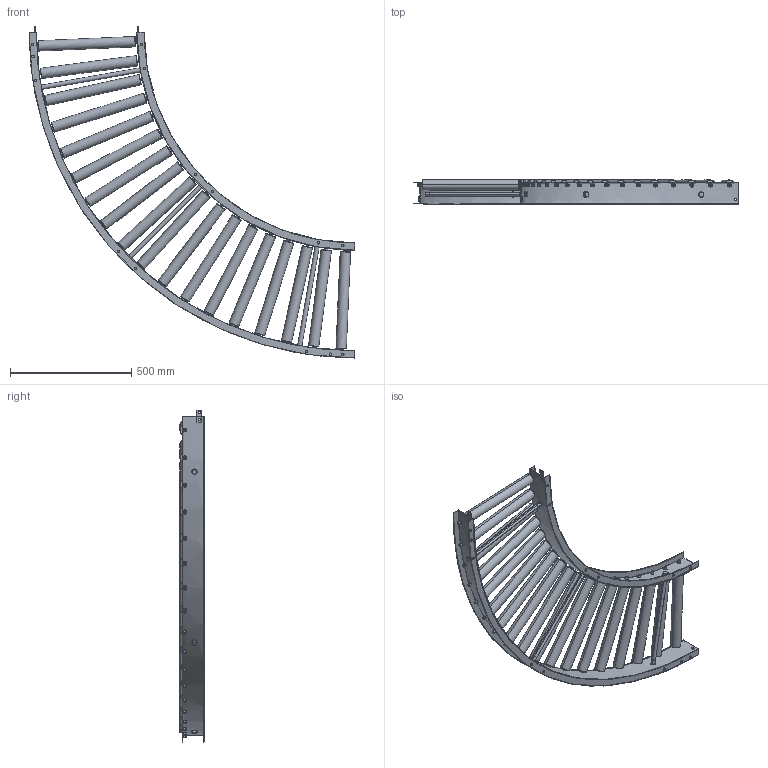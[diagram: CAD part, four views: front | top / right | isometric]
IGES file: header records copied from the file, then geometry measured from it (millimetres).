
Start section: SolidWorks IGES file using analytic representation for surfaces
Global section: file name: C:\Users\0656\Desktop\変換ツール\iges変換\R-4223NB_C.igs; native system: SolidWorks 2023; preprocessor: SolidWorks 2023; author: 0656; date: 240315.111839; units: millimetre
Bounding box: 1345 x 100.35 x 1370.08 mm (x, y, z)
Surface area: 2996969.5 mm2 (no closed solid volume)
Topology: 0 solids, 0 shells, 820 faces, 17884 edges, 17884 vertices
Faces by surface type: revolution 442, bspline 378
